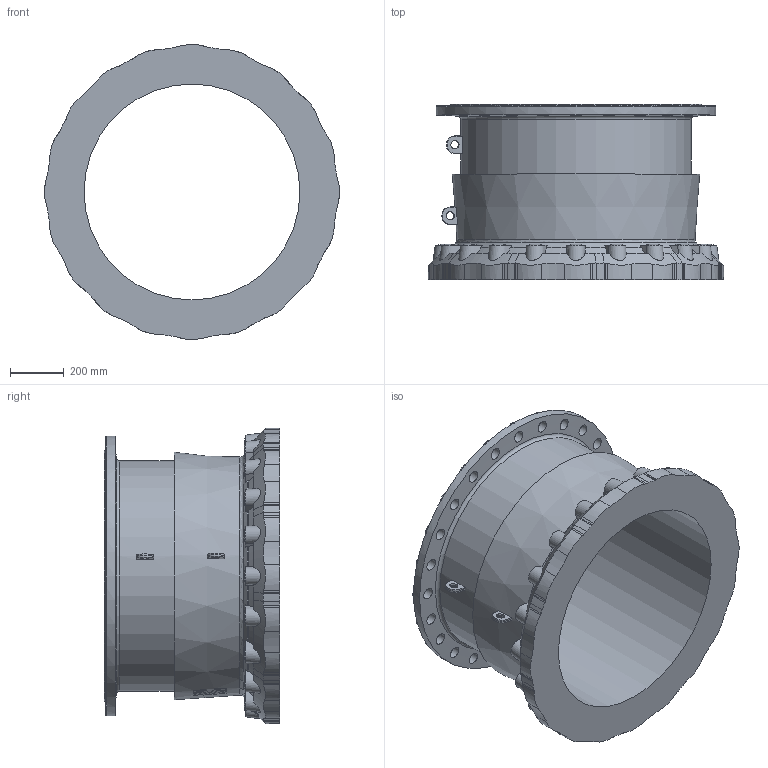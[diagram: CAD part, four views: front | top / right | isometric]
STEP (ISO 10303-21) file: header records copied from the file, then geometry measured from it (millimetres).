
FILE_DESCRIPTION (( 'STEP AP203' ), '1' );
FILE_NAME ('O_633_00_DN800_XXXX_REV01.step', '2023-12-06T10:26:37', ( '' ), ( '' ), 'SwSTEP 2.0', 'SolidWorks 2022', '' );
FILE_SCHEMA (( 'CONFIG_CONTROL_DESIGN' ));
Length unit declared in the file: millimetre
Products named in the file (1): O_633_00_DN800_XXXX_REV01
Bounding box: 1093.16 x 649.81 x 1093.43 mm (x, y, z)
Volume: 108284275.8 mm3; surface area: 4973461.8 mm2
Topology: 1 solids, 1 shells, 749 faces, 2091 edges, 1349 vertices
Faces by surface type: cylinder 353, plane 245, cone 87, torus 44, bspline 20
Full cylindrical faces by diameter (mm): 42.75 x24, 800 x1, 855 x1, 1035 x1
Entity records: 30851 total; most frequent: CARTESIAN_POINT 11956, ORIENTED_EDGE 4024, DIRECTION 4007, EDGE_CURVE 2012, AXIS2_PLACEMENT_3D 1703, VERTEX_POINT 1313, CIRCLE 973, EDGE_LOOP 851
